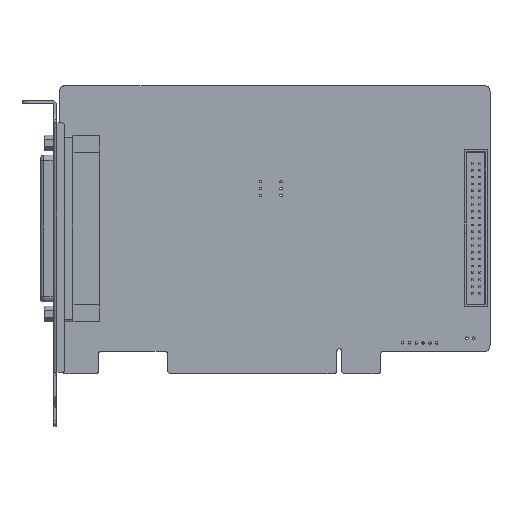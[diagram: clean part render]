
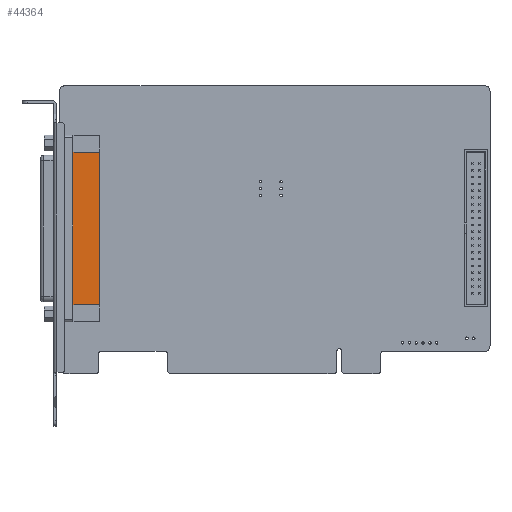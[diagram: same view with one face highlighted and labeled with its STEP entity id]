
A CAD part, top view. The second image highlights one B-rep face of the part: STEP entity #44364.
In plain terms, the highlighted planar face has unit normal (0, 0, 1).
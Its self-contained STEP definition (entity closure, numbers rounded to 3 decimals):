
#11159=DIRECTION('',(0.,-1.,0.));
#11160=VECTOR('',#11159,56.72);
#11161=CARTESIAN_POINT('',(-166.29,35.918,12.15));
#11162=LINE('',#11161,#11160);
#11163=DIRECTION('',(0.,1.,0.));
#11164=VECTOR('',#11163,56.72);
#11165=CARTESIAN_POINT('',(-176.29,-20.802,12.15));
#11166=LINE('',#11165,#11164);
#11167=DIRECTION('',(1.,0.,0.));
#11168=VECTOR('',#11167,10.);
#11169=CARTESIAN_POINT('',(-176.29,35.918,12.15));
#11170=LINE('',#11169,#11168);
#11179=DIRECTION('',(1.,0.,0.));
#11180=VECTOR('',#11179,10.);
#11181=CARTESIAN_POINT('',(-176.29,-20.802,12.15));
#11182=LINE('',#11181,#11180);
#17887=CARTESIAN_POINT('',(-166.29,-20.802,12.15));
#17888=VERTEX_POINT('',#17887);
#17889=CARTESIAN_POINT('',(-166.29,35.918,12.15));
#17890=VERTEX_POINT('',#17889);
#17905=CARTESIAN_POINT('',(-176.29,35.918,12.15));
#17906=VERTEX_POINT('',#17905);
#17907=CARTESIAN_POINT('',(-176.29,-20.802,12.15));
#17908=VERTEX_POINT('',#17907);
#44351=CARTESIAN_POINT('',(-171.29,7.558,12.15));
#44352=DIRECTION('',(0.,0.,1.));
#44353=DIRECTION('',(0.,1.,0.));
#44354=AXIS2_PLACEMENT_3D('',#44351,#44352,#44353);
#44355=PLANE('',#44354);
#44356=ORIENTED_EDGE('',*,*,#44180,.T.);
#44358=ORIENTED_EDGE('',*,*,#44357,.F.);
#44360=ORIENTED_EDGE('',*,*,#44359,.T.);
#44361=ORIENTED_EDGE('',*,*,#44336,.T.);
#44362=EDGE_LOOP('',(#44356,#44358,#44360,#44361));
#44363=FACE_OUTER_BOUND('',#44362,.F.);
#44180=EDGE_CURVE('',#17890,#17888,#11162,.T.);
#44336=EDGE_CURVE('',#17906,#17890,#11170,.T.);
#44357=EDGE_CURVE('',#17908,#17888,#11182,.T.);
#44359=EDGE_CURVE('',#17908,#17906,#11166,.T.);
#44364=ADVANCED_FACE('',(#44363),#44355,.T.);
